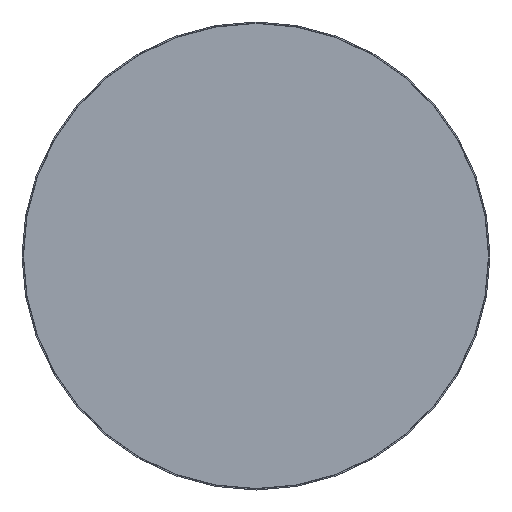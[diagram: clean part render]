
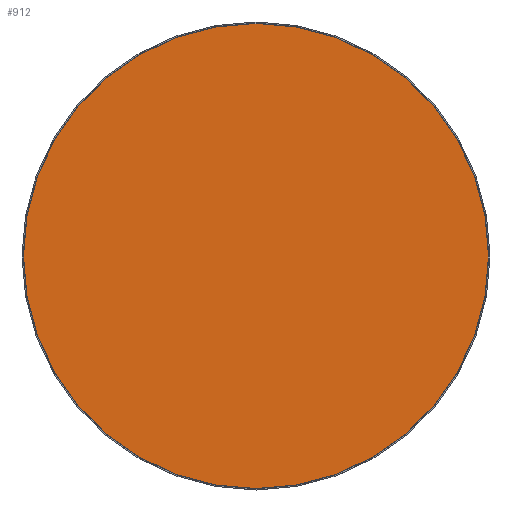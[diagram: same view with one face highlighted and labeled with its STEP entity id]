
A CAD part, top view. The second image highlights one B-rep face of the part: STEP entity #912.
In plain terms, the highlighted planar face has unit normal (0, 0, 1).
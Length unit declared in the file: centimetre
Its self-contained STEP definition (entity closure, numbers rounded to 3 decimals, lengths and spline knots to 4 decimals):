
#33 = DIRECTION ( 'NONE',  ( 0., 0., 1. ) ) ;
#130 = PLANE ( 'NONE',  #940 ) ;
#190 = VERTEX_POINT ( 'NONE', #353 ) ;
#276 = CIRCLE ( 'NONE', #1062, 39.75 ) ;
#314 = CIRCLE ( 'NONE', #554, 39.75 ) ;
#340 = VERTEX_POINT ( 'NONE', #603 ) ;
#353 = CARTESIAN_POINT ( 'NONE',  ( 36.9046, 0.9004, 1.4 ) ) ;
#466 = ORIENTED_EDGE ( 'NONE', *, *, #949, .T. ) ;
#554 = AXIS2_PLACEMENT_3D ( 'NONE', #576, #1189, #1152 ) ;
#576 = CARTESIAN_POINT ( 'NONE',  ( -2.8454, 0.9004, 1.4 ) ) ;
#603 = CARTESIAN_POINT ( 'NONE',  ( -42.5954, 0.9004, 1.4 ) ) ;
#757 = EDGE_CURVE ( 'NONE', #340, #190, #276, .T. ) ;
#761 = EDGE_LOOP ( 'NONE', ( #1029, #466 ) ) ;
#912 = ADVANCED_FACE ( 'NONE', ( #1626 ), #130, .T. ) ;
#940 = AXIS2_PLACEMENT_3D ( 'NONE', #1321, #1008, #1797 ) ;
#949 = EDGE_CURVE ( 'NONE', #190, #340, #314, .T. ) ;
#1008 = DIRECTION ( 'NONE',  ( 0., 0., 1. ) ) ;
#1029 = ORIENTED_EDGE ( 'NONE', *, *, #757, .T. ) ;
#1062 = AXIS2_PLACEMENT_3D ( 'NONE', #1389, #33, #1678 ) ;
#1152 = DIRECTION ( 'NONE',  ( 1., 0., 0. ) ) ;
#1189 = DIRECTION ( 'NONE',  ( 0., 0., 1. ) ) ;
#1321 = CARTESIAN_POINT ( 'NONE',  ( -2.8454, 0.9004, 1.4 ) ) ;
#1389 = CARTESIAN_POINT ( 'NONE',  ( -2.8454, 0.9004, 1.4 ) ) ;
#1626 = FACE_OUTER_BOUND ( 'NONE', #761, .T. ) ;
#1678 = DIRECTION ( 'NONE',  ( 1., 0., 0. ) ) ;
#1797 = DIRECTION ( 'NONE',  ( 1., 0., 0. ) ) ;
